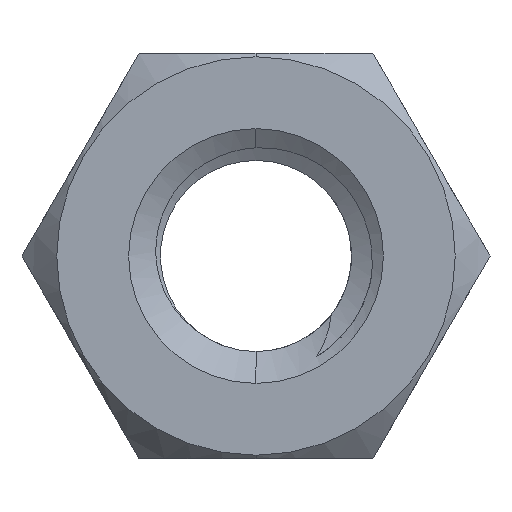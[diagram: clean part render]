
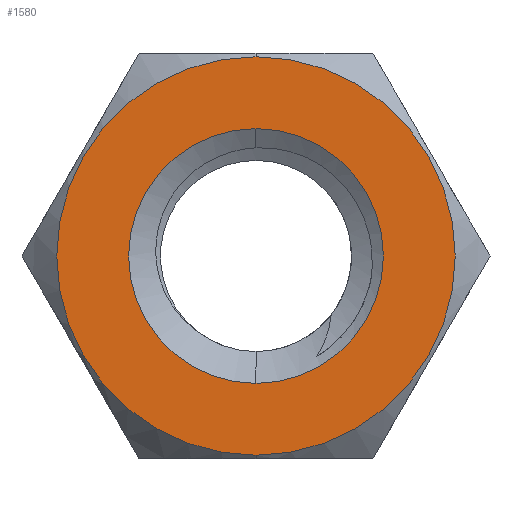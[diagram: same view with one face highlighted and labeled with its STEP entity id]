
A CAD part, front view. The second image highlights one B-rep face of the part: STEP entity #1580.
In plain terms, the highlighted planar face has unit normal (0, -1, 0).
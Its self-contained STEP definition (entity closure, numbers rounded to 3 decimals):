
#49 = CIRCLE ( 'NONE', #361, 2.2 ) ;
#54 = CARTESIAN_POINT ( 'NONE',  ( 0., -1.5, 3.441 ) ) ;
#88 = CARTESIAN_POINT ( 'NONE',  ( 0., -1.5, 0. ) ) ;
#119 = ORIENTED_EDGE ( 'NONE', *, *, #1764, .T. ) ;
#159 = DIRECTION ( 'NONE',  ( 0., -1., 0. ) ) ;
#172 = CARTESIAN_POINT ( 'NONE',  ( 0., -1.5, -3.441 ) ) ;
#179 = EDGE_CURVE ( 'NONE', #623, #1471, #1586, .T. ) ;
#202 = DIRECTION ( 'NONE',  ( 0., -1., 0. ) ) ;
#225 = CARTESIAN_POINT ( 'NONE',  ( 0., -1.5, -2.2 ) ) ;
#304 = CIRCLE ( 'NONE', #1960, 3.441 ) ;
#320 = VERTEX_POINT ( 'NONE', #172 ) ;
#361 = AXIS2_PLACEMENT_3D ( 'NONE', #386, #202, #546 ) ;
#386 = CARTESIAN_POINT ( 'NONE',  ( 0., -1.5, 0. ) ) ;
#478 = DIRECTION ( 'NONE',  ( 0., 1., 0. ) ) ;
#546 = DIRECTION ( 'NONE',  ( 0., 0., -1. ) ) ;
#573 = ORIENTED_EDGE ( 'NONE', *, *, #1301, .F. ) ;
#584 = DIRECTION ( 'NONE',  ( 0., -1., 0. ) ) ;
#585 = CARTESIAN_POINT ( 'NONE',  ( 0., -1.5, 2.2 ) ) ;
#623 = VERTEX_POINT ( 'NONE', #225 ) ;
#634 = AXIS2_PLACEMENT_3D ( 'NONE', #88, #1939, #673 ) ;
#673 = DIRECTION ( 'NONE',  ( 0., 0., -1. ) ) ;
#720 = AXIS2_PLACEMENT_3D ( 'NONE', #1021, #584, #1191 ) ;
#800 = FACE_BOUND ( 'NONE', #1478, .T. ) ;
#953 = DIRECTION ( 'NONE',  ( 0., 0., -1. ) ) ;
#1021 = CARTESIAN_POINT ( 'NONE',  ( 0., -1.5, 0. ) ) ;
#1177 = EDGE_CURVE ( 'NONE', #1681, #320, #304, .T. ) ;
#1187 = ORIENTED_EDGE ( 'NONE', *, *, #1177, .T. ) ;
#1191 = DIRECTION ( 'NONE',  ( 0., 0., -1. ) ) ;
#1301 = EDGE_CURVE ( 'NONE', #1471, #623, #49, .T. ) ;
#1384 = DIRECTION ( 'NONE',  ( 0., 0., 1. ) ) ;
#1427 = CIRCLE ( 'NONE', #634, 3.441 ) ;
#1471 = VERTEX_POINT ( 'NONE', #585 ) ;
#1478 = EDGE_LOOP ( 'NONE', ( #573, #1492 ) ) ;
#1492 = ORIENTED_EDGE ( 'NONE', *, *, #179, .F. ) ;
#1580 = ADVANCED_FACE ( 'NONE', ( #800, #1873 ), #1690, .F. ) ;
#1586 = CIRCLE ( 'NONE', #720, 2.2 ) ;
#1681 = VERTEX_POINT ( 'NONE', #54 ) ;
#1690 = PLANE ( 'NONE',  #1864 ) ;
#1698 = CARTESIAN_POINT ( 'NONE',  ( 0., -1.5, 0. ) ) ;
#1720 = EDGE_LOOP ( 'NONE', ( #1187, #119 ) ) ;
#1727 = CARTESIAN_POINT ( 'NONE',  ( 0., -1.5, 0. ) ) ;
#1764 = EDGE_CURVE ( 'NONE', #320, #1681, #1427, .T. ) ;
#1864 = AXIS2_PLACEMENT_3D ( 'NONE', #1698, #478, #1384 ) ;
#1873 = FACE_OUTER_BOUND ( 'NONE', #1720, .T. ) ;
#1939 = DIRECTION ( 'NONE',  ( 0., -1., 0. ) ) ;
#1960 = AXIS2_PLACEMENT_3D ( 'NONE', #1727, #159, #953 ) ;
